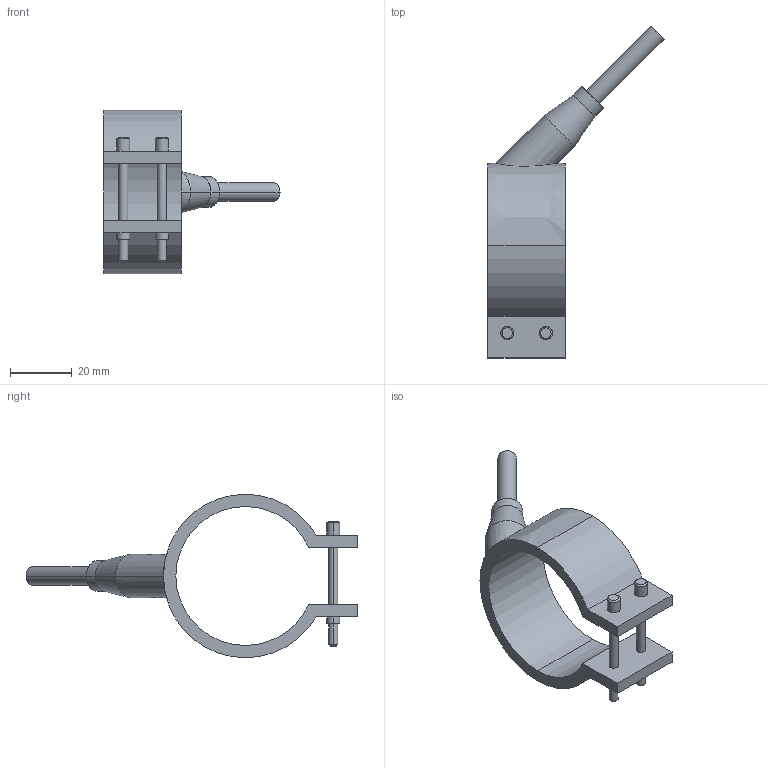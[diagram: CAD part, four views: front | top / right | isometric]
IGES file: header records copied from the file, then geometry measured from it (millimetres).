
Start section: START RECORD GO HERE.
Global section: file name: 29045025.igs; native system: DASSAULT SYSTEMES CATIA V5 R20 - www.3ds.com; preprocessor: CATIA Version 5 Release 20 ; author: Utente; organization: NB04-ASUS; date: 20210327.103658; units: millimetre
Bounding box: 57.05 x 107.55 x 53 mm (x, y, z)
Surface area: 11776.4 mm2 (no closed solid volume)
Topology: 0 solids, 0 shells, 54 faces, 244 edges, 244 vertices
Faces by surface type: revolution 38, plane 16
